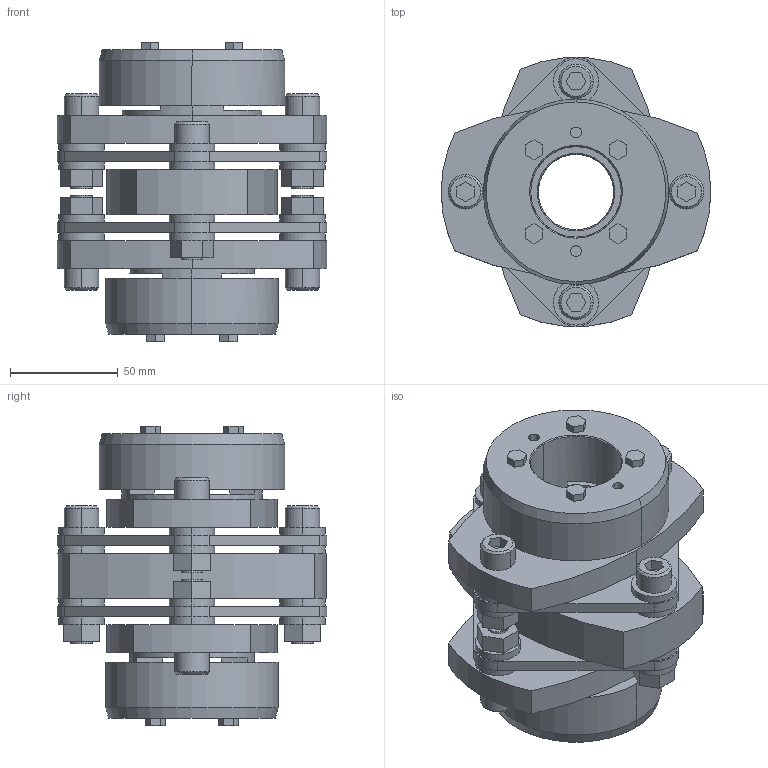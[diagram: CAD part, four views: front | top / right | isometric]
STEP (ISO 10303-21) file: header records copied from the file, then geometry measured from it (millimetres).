
FILE_DESCRIPTION((''),'2;1');
FILE_NAME('LCD-125T7-35×42.stp','2011-09-07T10:17:58',(''),(''),'AutoCAD STEP 2000i','AutoCAD 2000i',', , ');
FILE_SCHEMA(('CONFIG_CONTROL_DESIGN'));
Length unit declared in the file: millimetre
Products named in the file (9): LCD-125T7-35×40; 忣兜1; LC125T7-T040; LC125T7-T038; LC125T7-T035-1; LC125T7-T035; LC125T7-T032-1; LC125T7-T032; LCD125-ITA
Assembly tree (8 placements, depth 2):
  LCD-125T7-35×40
    忣兜1
    LC125T7-T040
    LC125T7-T038
    LC125T7-T035-1
    LC125T7-T035
    LC125T7-T032-1
    LC125T7-T032
    LCD125-ITA
Bounding box: 125 x 124.91 x 139 mm (x, y, z)
Volume: 664121.4 mm3; surface area: 138785.6 mm2
Topology: 1 solids, 1 shells, 334 faces, 818 edges, 538 vertices
Faces by surface type: plane 190, cylinder 120, cone 24
Entity records: 10127 total; most frequent: DIRECTION 1786, CARTESIAN_POINT 1699, ORIENTED_EDGE 1636, EDGE_CURVE 818, AXIS2_PLACEMENT_3D 625, VERTEX_POINT 538, VECTOR 536, LINE 536
